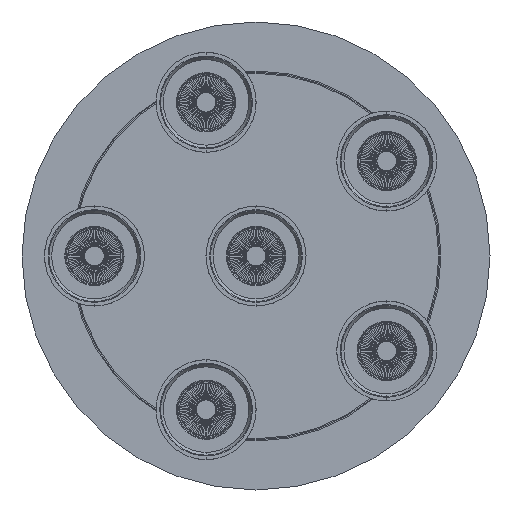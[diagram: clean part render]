
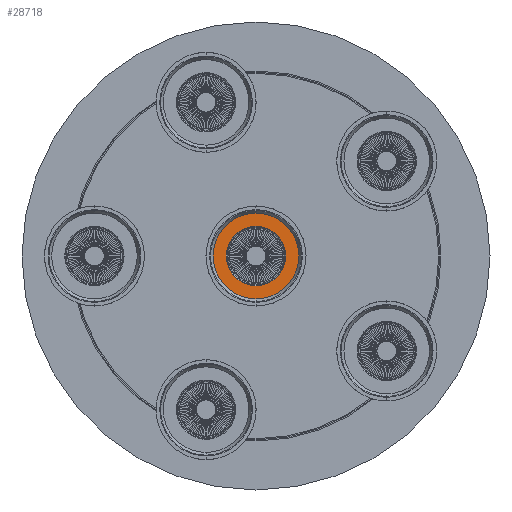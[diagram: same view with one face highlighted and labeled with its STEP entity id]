
A CAD part, front view. The second image highlights one B-rep face of the part: STEP entity #28718.
In plain terms, the highlighted planar face has unit normal (0, -1, 0).
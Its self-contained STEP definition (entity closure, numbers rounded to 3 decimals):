
#808 = CARTESIAN_POINT ( 'NONE',  ( 0., -71.253, -38.376 ) ) ;
#1071 = CARTESIAN_POINT ( 'NONE',  ( 0., -71.253, 26.618 ) ) ;
#1715 = CARTESIAN_POINT ( 'NONE',  ( 0., -71.253, 0. ) ) ;
#4548 = VERTEX_POINT ( 'NONE', #1071 ) ;
#4927 = CIRCLE ( 'NONE', #36108, 26.618 ) ;
#7421 = DIRECTION ( 'NONE',  ( 0., 1., 0. ) ) ;
#7655 = AXIS2_PLACEMENT_3D ( 'NONE', #43370, #7421, #19209 ) ;
#7662 = FACE_BOUND ( 'NONE', #31427, .T. ) ;
#7907 = AXIS2_PLACEMENT_3D ( 'NONE', #1715, #32809, #32021 ) ;
#10339 = AXIS2_PLACEMENT_3D ( 'NONE', #31202, #19094, #10891 ) ;
#10891 = DIRECTION ( 'NONE',  ( 0., 0., 1. ) ) ;
#10950 = ORIENTED_EDGE ( 'NONE', *, *, #12650, .T. ) ;
#11417 = EDGE_LOOP ( 'NONE', ( #33984, #49195 ) ) ;
#11877 = VERTEX_POINT ( 'NONE', #33792 ) ;
#12650 = EDGE_CURVE ( 'NONE', #11877, #4548, #37387, .T. ) ;
#18491 = DIRECTION ( 'NONE',  ( 0., 1., 0. ) ) ;
#19094 = DIRECTION ( 'NONE',  ( 0., 1., 0. ) ) ;
#19209 = DIRECTION ( 'NONE',  ( 0., 0., 1. ) ) ;
#23667 = CARTESIAN_POINT ( 'NONE',  ( 0., -71.253, 0. ) ) ;
#24586 = ORIENTED_EDGE ( 'NONE', *, *, #46911, .T. ) ;
#25066 = CARTESIAN_POINT ( 'NONE',  ( 0., -71.253, 38.376 ) ) ;
#25222 = EDGE_CURVE ( 'NONE', #45397, #39558, #44816, .T. ) ;
#27724 = FACE_OUTER_BOUND ( 'NONE', #11417, .T. ) ;
#28718 = ADVANCED_FACE ( 'NONE', ( #7662, #27724 ), #43620, .F. ) ;
#30906 = DIRECTION ( 'NONE',  ( 0., 1., 0. ) ) ;
#31202 = CARTESIAN_POINT ( 'NONE',  ( 0., -71.253, 0. ) ) ;
#31427 = EDGE_LOOP ( 'NONE', ( #10950, #24586 ) ) ;
#32021 = DIRECTION ( 'NONE',  ( 0., 0., 1. ) ) ;
#32522 = CIRCLE ( 'NONE', #10339, 38.376 ) ;
#32809 = DIRECTION ( 'NONE',  ( 0., 1., 0. ) ) ;
#33792 = CARTESIAN_POINT ( 'NONE',  ( 0., -71.253, -26.618 ) ) ;
#33984 = ORIENTED_EDGE ( 'NONE', *, *, #25222, .F. ) ;
#34191 = DIRECTION ( 'NONE',  ( 0., 0., 1. ) ) ;
#36108 = AXIS2_PLACEMENT_3D ( 'NONE', #50325, #18491, #34191 ) ;
#37387 = CIRCLE ( 'NONE', #40621, 26.618 ) ;
#39344 = DIRECTION ( 'NONE',  ( 0., 0., 1. ) ) ;
#39558 = VERTEX_POINT ( 'NONE', #25066 ) ;
#40621 = AXIS2_PLACEMENT_3D ( 'NONE', #23667, #30906, #39344 ) ;
#42329 = EDGE_CURVE ( 'NONE', #39558, #45397, #32522, .T. ) ;
#43370 = CARTESIAN_POINT ( 'NONE',  ( 26., -71.253, 0. ) ) ;
#43620 = PLANE ( 'NONE',  #7655 ) ;
#44816 = CIRCLE ( 'NONE', #7907, 38.376 ) ;
#45397 = VERTEX_POINT ( 'NONE', #808 ) ;
#46911 = EDGE_CURVE ( 'NONE', #4548, #11877, #4927, .T. ) ;
#49195 = ORIENTED_EDGE ( 'NONE', *, *, #42329, .F. ) ;
#50325 = CARTESIAN_POINT ( 'NONE',  ( 0., -71.253, 0. ) ) ;
